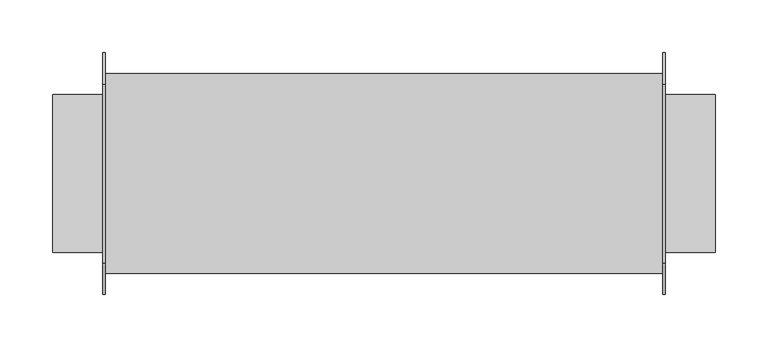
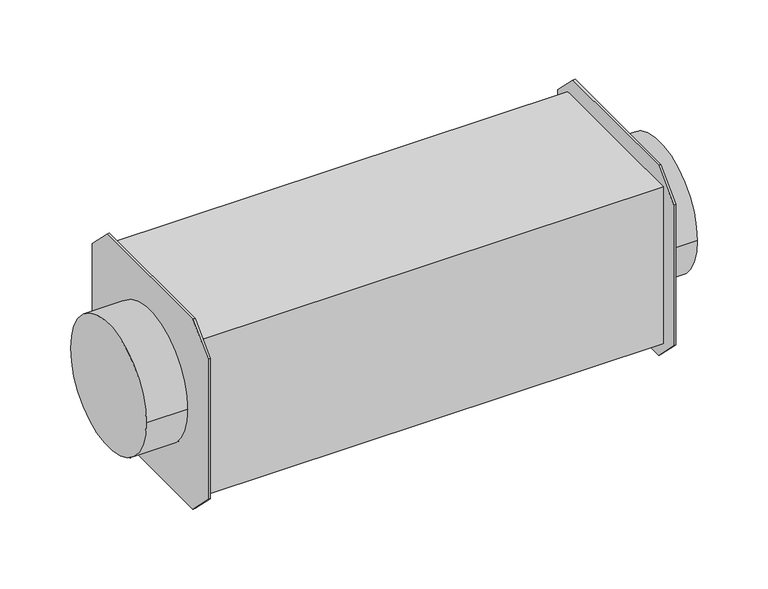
"""IFC4 building model written with IfcOpenShell, lengths in millimetres: unitary equipment geometry, 140_VAV_変風量ユニット_丸ダクト用 : 変風量ユニット_丸ダクト用."""

from ifc_helpers import new_model, si_unit, point, frame, origin, origin_2d, place, context, project, spatial, polyline, circle_curve, trimmed, segment, composite_curve, outline, extrude, source, transform, mapped, element, save


def unitary_equipment_c93d3263(model_context):
    return source(origin(), model_context, "Body", "SweptSolid", [
        extrude(outline(polyline([(-85.0, -115.0), (-115.0, -85.0), (-115.0, 85.0), (-85.0, 115.0), (85.0, 115.0), (115.0, 85.0), (115.0, -85.0), (85.0, -115.0), (-85.0, -115.0)])), frame((265.0, 0.0, 0.0), z_axis=(1.0, 0.0, 0.0), x_axis=(0.0, 1.0, 0.0)), (0.0, 0.0, 1.0), 2.5),
        extrude(outline(polyline([(-85.0, -115.0), (-115.0, -85.0), (-115.0, 85.0), (-85.0, 115.0), (85.0, 115.0), (115.0, 85.0), (115.0, -85.0), (85.0, -115.0), (-85.0, -115.0)])), frame((-267.5, 0.0, 0.0), z_axis=(1.0, 0.0, 0.0), x_axis=(0.0, 1.0, 0.0)), (0.0, 0.0, 1.0), 2.5),
        extrude(outline(composite_curve([segment(trimmed(circle_curve(origin_2d(), 75.0), [point((-75.0, 0.0))], [point((75.0, 0.0))], False, "CARTESIAN"), True, "CONTINUOUS"), segment(trimmed(circle_curve(origin_2d(), 75.0), [point((75.0, 0.0))], [point((-75.0, 0.0))], False, "CARTESIAN"), True, "CONTINUOUS")], self_intersect=False)), frame((265.0, 0.0, 0.0), z_axis=(1.0, 0.0, 0.0), x_axis=(0.0, 1.0, 0.0)), (0.0, 0.0, 1.0), 50.0),
        extrude(outline(composite_curve([segment(trimmed(circle_curve(origin_2d(), 75.0), [point((-75.0, 0.0))], [point((75.0, 0.0))], False, "CARTESIAN"), True, "CONTINUOUS"), segment(trimmed(circle_curve(origin_2d(), 75.0), [point((75.0, 0.0))], [point((-75.0, 0.0))], False, "CARTESIAN"), True, "CONTINUOUS")], self_intersect=False)), frame((-315.0, 0.0, 0.0), z_axis=(1.0, 0.0, 0.0), x_axis=(0.0, 1.0, 0.0)), (0.0, 0.0, 1.0), 50.0),
        extrude(outline(polyline([(265.0, 95.0), (265.0, -95.0), (-265.0, -95.0), (-265.0, 95.0), (265.0, 95.0)])), frame((0.0, 0.0, -95.0), z_axis=(0.0, 0.0, 1.0), x_axis=(1.0, 0.0, 0.0)), (0.0, 0.0, 1.0), 190.0),
    ])


if __name__ == "__main__":
    model = new_model("IFC4")
    model_context = context("Model", 3, world=origin())
    ifc_project = project(units=[si_unit("LENGTHUNIT", "METRE", prefix="MILLI")], contexts=[model_context])
    site = spatial("IfcSite", under=ifc_project)
    building = spatial("IfcBuilding", under=site)
    placement = place(None, origin())
    unitary_equipment_shape = unitary_equipment_c93d3263(model_context)
    element("IfcUnitaryEquipment", 1, ObjectType="140_VAV_変風量ユニット_丸ダクト用 : 変風量ユニット_丸ダクト用", at=placement, inside=building, context=model_context, shape_type="MappedRepresentation", body=[
        mapped(unitary_equipment_shape, transform((0.0, 0.0, 0.0), x_axis=(1.0, 0.0, 0.0), y_axis=(0.0, 1.0, 0.0), z_axis=(0.0, 0.0, 1.0))),
    ])
    save(model, "model.ifc")
